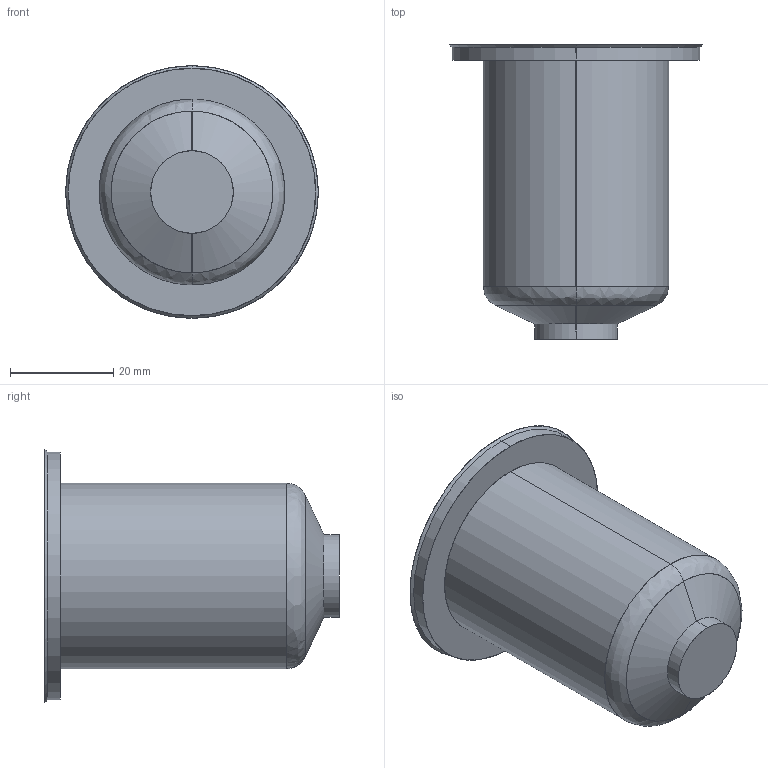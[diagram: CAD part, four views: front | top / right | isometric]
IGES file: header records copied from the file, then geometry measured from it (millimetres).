
Start section: SolidWorks IGES file using analytic representation for surfaces
Global section: file name: C:\Documents and Settings\ws-20\Desktop\TEMPORANEA\Sede UGBE5001-M-A C-54 L-74 P-0.IGS; native system: SolidWorks 2012; preprocessor: SolidWorks 2012; author: ws-20; date: 120307.090639; units: millimetre
Bounding box: 49 x 57.14 x 49 mm (x, y, z)
Surface area: 9604.1 mm2 (no closed solid volume)
Topology: 0 solids, 0 shells, 15 faces, 272 edges, 272 vertices
Faces by surface type: revolution 10, bspline 5
